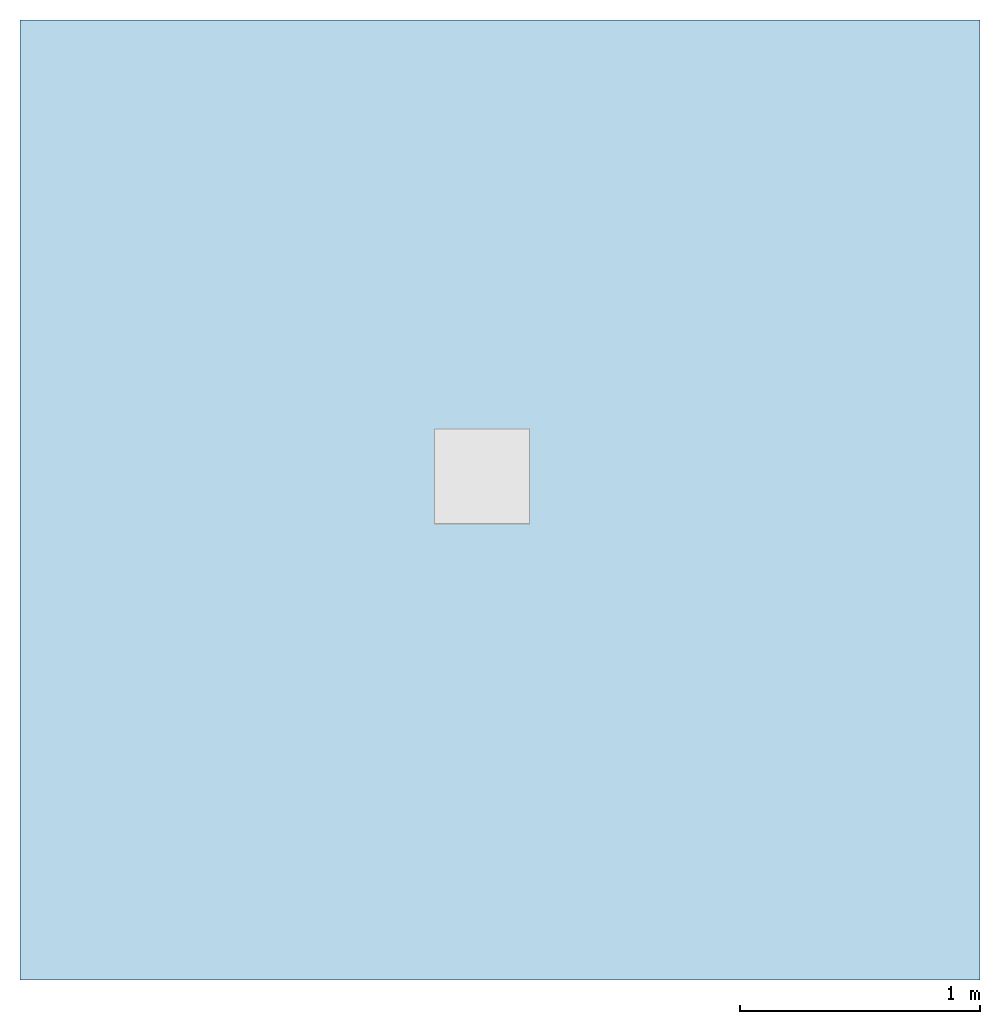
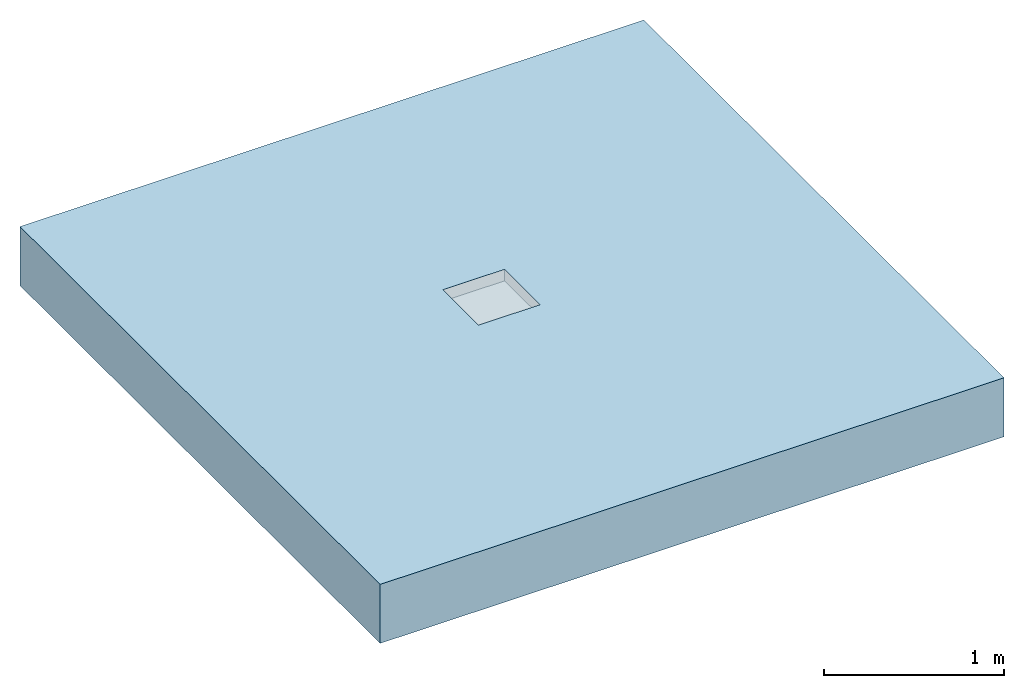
# One storey, incomplete: 1 slab, 3 openings.
"""IFC2X3 building model written with IfcOpenShell, lengths in millimetres."""

import ifcopenshell
import ifcopenshell.guid

model = None  # the IFC model being written
_history = None  # IfcOwnerHistory: only IFC2X3 demands one
_inside = {}  # id of a spatial element -> (the spatial element, [elements in it])
_under = {}  # id of a project, library or spatial element -> (it, [spatial elements below it])
_declared = {}  # id of a project -> (the project, [libraries it declares])
_typed = {}  # id of a type object -> (the type object, [elements of that type])
_made_of = {}  # id of a material, layer set ... -> (it, [elements and type objects made of it])


def new_model(schema):
    """Start an empty IFC model of exactly this schema.

    Asked for "IFC4X3", IfcOpenShell would pick the latest addendum, in which some entities
    have other attributes; the version numbers below select the first issue.
    IFC2X3 requires an IfcOwnerHistory on every rooted entity: one is made here for all.
    """
    global model, _history
    if schema == "IFC4X3":
        model = ifcopenshell.file(schema_version=(4, 3, 0, 0))
    else:
        model = ifcopenshell.file(schema=schema)
    _inside.clear()
    _under.clear()
    _declared.clear()
    _typed.clear()
    _made_of.clear()
    _history = None
    if model.schema == "IFC2X3":
        org = make("IfcOrganization", Name="unknown")
        user = make(
            "IfcPersonAndOrganization",
            ThePerson=make("IfcPerson", FamilyName="unknown"),
            TheOrganization=org,
        )
        app = make(
            "IfcApplication",
            ApplicationDeveloper=org,
            Version="unknown",
            ApplicationFullName="unknown",
            ApplicationIdentifier="unknown",
        )
        _history = make(
            "IfcOwnerHistory",
            OwningUser=user,
            OwningApplication=app,
            ChangeAction="ADDED",
            CreationDate=0,
        )
    return model


def make(cls, **values):
    """One entity of the class cls with the attributes given. An attribute that is None is left unset."""
    return model.create_entity(
        cls, **{name: value for name, value in values.items() if value is not None}
    )


def entity(cls, *values):
    """Any entity or typed value of the class cls, its attributes in the order of the schema. None: left unset."""
    e = model.create_entity(cls)
    for i, value in enumerate(values):
        if value is not None:
            e[i] = value
    return e


def rooted(cls, **values):
    """An entity with a GlobalId (a new one), such as an element, a storey or a relation."""
    return make(cls, GlobalId=ifcopenshell.guid.new(), OwnerHistory=_history, **values)


def si_unit(unit_type, name, prefix=None):
    """IfcSIUnit, for example si_unit("LENGTHUNIT", "METRE", prefix="MILLI")."""
    return make("IfcSIUnit", UnitType=unit_type, Prefix=prefix, Name=name)


def converted_unit(unit_type, name, factor, base, dimensions=None, offset=None):
    """IfcConversionBasedUnit, such as the inch: factor (a typed value) times the base unit."""
    return make(
        "IfcConversionBasedUnit"
        if offset is None
        else "IfcConversionBasedUnitWithOffset",
        ConversionOffset=offset,
        Dimensions=None
        if dimensions is None
        else entity("IfcDimensionalExponents", *dimensions),
        UnitType=unit_type,
        Name=name,
        ConversionFactor=make(
            "IfcMeasureWithUnit", ValueComponent=factor, UnitComponent=base
        ),
    )


def derived_unit(unit_type, elements):
    """IfcDerivedUnit: a product of units, each with its exponent."""
    return make(
        "IfcDerivedUnit",
        Elements=[
            make("IfcDerivedUnitElement", Unit=unit, Exponent=power)
            for unit, power in elements
        ],
        UnitType=unit_type,
    )


def assignment(units):
    """IfcUnitAssignment: the units of a project."""
    return None if units is None else make("IfcUnitAssignment", Units=units)


def point(xyz):
    """IfcCartesianPoint."""
    return None if xyz is None else make("IfcCartesianPoint", Coordinates=xyz)


def direction(xyz):
    """IfcDirection."""
    return None if xyz is None else make("IfcDirection", DirectionRatios=xyz)


def frame(location, z_axis=None, x_axis=None):
    """IfcAxis2Placement3D, a coordinate frame: its origin and axes. An axis left out is left unset."""
    return make(
        "IfcAxis2Placement3D",
        Location=point(location),
        Axis=direction(z_axis),
        RefDirection=direction(x_axis),
    )


def frame_2d(location, x_axis=None):
    """IfcAxis2Placement2D, a coordinate frame in the plane: its origin and x axis."""
    return make(
        "IfcAxis2Placement2D", Location=point(location), RefDirection=direction(x_axis)
    )


def origin():
    """The frame at (0, 0, 0) with its axes left unset."""
    return frame((0.0, 0.0, 0.0))


def origin_2d_with_axis():
    """The frame at (0, 0) in the plane with the x axis (1, 0) written out."""
    return frame_2d((0.0, 0.0), x_axis=(1.0, 0.0))


def place(relative_to, where):
    """IfcLocalPlacement: puts the frame where relative to a parent placement (None: the world)."""
    return make(
        "IfcLocalPlacement", PlacementRelTo=relative_to, RelativePlacement=where
    )


def context(
    kind, dimensions, precision=None, world=None, true_north=None, identifier=None
):
    """IfcGeometricRepresentationContext, for example the 3D "Model" context."""
    return make(
        "IfcGeometricRepresentationContext",
        ContextIdentifier=identifier,
        ContextType=kind,
        CoordinateSpaceDimension=dimensions,
        Precision=precision,
        WorldCoordinateSystem=world,
        TrueNorth=true_north,
    )


def subcontext(parent, identifier, kind, view, scale=None):
    """IfcGeometricRepresentationSubContext, for example "Body" below "Model"."""
    return make(
        "IfcGeometricRepresentationSubContext",
        ContextIdentifier=identifier,
        ContextType=kind,
        ParentContext=parent,
        TargetScale=scale,
        TargetView=view,
    )


def project(units=None, contexts=None):
    """IfcProject with its units and contexts."""
    return rooted(
        "IfcProject",
        Name="project",
        RepresentationContexts=contexts,
        UnitsInContext=assignment(units),
    )


def spatial(cls, under=None, at=None, **own):
    """A site, building, storey or space (cls), placed at a placement, below another one or the project."""
    s = rooted(cls, ObjectPlacement=at, **own)
    if under is not None:
        _under.setdefault(under.id(), (under, []))[1].append(s)
    return s


def profile(cls, at=None, kind="AREA", **sizes):
    """A parametric profile (cls). Its sizes go by their IFC names, for example OverallWidth=200.0."""
    return make(cls, ProfileType=kind, Position=at, **sizes)


def rectangle(**sizes):
    """IfcRectangleProfileDef."""
    return profile("IfcRectangleProfileDef", **sizes)


def extrude(swept, where, along, depth):
    """IfcExtrudedAreaSolid: the profile swept, set in the frame where, extruded along a direction by depth."""
    return make(
        "IfcExtrudedAreaSolid",
        SweptArea=swept,
        Position=where,
        ExtrudedDirection=direction(along),
        Depth=depth,
    )


def faces_of(points, faces, orient=None, outer=None):
    """IfcFace entities. A face is a list of loops; a loop is a list of indices into points, from 0.

    orient and outer hold one flag for each loop. By default every Orientation is true, the
    first loop of a face is its IfcFaceOuterBound and the others are IfcFaceBound.
    """
    made = []
    for i, loops in enumerate(faces):
        bounds = []
        for j, loop in enumerate(loops):
            is_outer = j == 0 if outer is None else outer[i][j]
            bounds.append(
                make(
                    "IfcFaceOuterBound" if is_outer else "IfcFaceBound",
                    Bound=make("IfcPolyLoop", Polygon=[points[k] for k in loop]),
                    Orientation=True if orient is None else orient[i][j],
                )
            )
        made.append(make("IfcFace", Bounds=bounds))
    return made


def faceted_brep(points, faces, orient=None, outer=None, voids=None):
    """IfcFacetedBrep: a solid bounded by flat faces; with voids (closed shells), ...WithVoids."""
    shared = [point(p) for p in points]
    hull = make("IfcClosedShell", CfsFaces=faces_of(shared, faces, orient, outer))
    if voids is None:
        return make("IfcFacetedBrep", Outer=hull)
    return make(
        "IfcFacetedBrepWithVoids",
        Outer=hull,
        Voids=[
            make(cls, CfsFaces=faces_of(shared, fs, o, b)) for cls, fs, o, b in voids
        ],
    )


def shape(context_of_items, identifier, shape_type, items):
    """IfcShapeRepresentation: the items that make up one representation, for example the "Body"."""
    return make(
        "IfcShapeRepresentation",
        ContextOfItems=context_of_items,
        RepresentationIdentifier=identifier,
        RepresentationType=shape_type,
        Items=items,
    )


def material(Name=None, Category=None):
    """IfcMaterial."""
    return make("IfcMaterial", Name=Name, Category=Category)


def layer(
    of_material, thickness, ventilated=None, Name=None, Category=None, Priority=None
):
    """IfcMaterialLayer: one layer of a wall or slab, of a material (None: an air gap)."""
    return make(
        "IfcMaterialLayer",
        Material=of_material,
        LayerThickness=thickness,
        IsVentilated=ventilated,
        Name=Name,
        Category=Category,
        Priority=Priority,
    )


def layer_set(layers, Name=None):
    """IfcMaterialLayerSet."""
    return make("IfcMaterialLayerSet", MaterialLayers=layers, LayerSetName=Name)


def layer_usage(for_layer_set, set_direction, sense, offset, extent=None):
    """IfcMaterialLayerSetUsage: how a layer set lies in its element."""
    return make(
        "IfcMaterialLayerSetUsage",
        ForLayerSet=for_layer_set,
        LayerSetDirection=set_direction,
        DirectionSense=sense,
        OffsetFromReferenceLine=offset,
        ReferenceExtent=extent,
    )


def made_of(thing, what):
    """Note that an element or type object is made of a material, layer set ...; save() writes the relation."""
    if what is not None:
        _made_of.setdefault(what.id(), (what, []))[1].append(thing)
    return thing


def element(
    cls,
    number,
    at=None,
    inside=None,
    cuts=None,
    type_object=None,
    material=None,
    context=None,
    identifier="Body",
    shape_type=None,
    held_by="IfcProductDefinitionShape",
    body=None,
    shapes=None,
    **own,
):
    """One element of the class cls, such as IfcWall. Its Tag is "e" and its number.

    at: its placement. inside: the storey or other place that contains it. cuts: it is an
    opening in that element (IfcRelVoidsElement). A single representation is given by context,
    identifier, shape_type and body (its items); several are given by shapes. held_by: the class
    of the entity that holds the representations. save() writes the other relations.
    """
    e = rooted(cls, Tag="e%d" % number, ObjectPlacement=at, **own)
    if body is not None:
        shapes = [shape(context, identifier, shape_type, body)]
    if shapes is not None:
        e.Representation = make(held_by, Representations=shapes)
    if inside is not None:
        _inside.setdefault(inside.id(), (inside, []))[1].append(e)
    if cuts is not None:
        rooted(
            "IfcRelVoidsElement", RelatingBuildingElement=cuts, RelatedOpeningElement=e
        )
    if type_object is not None:
        _typed.setdefault(type_object.id(), (type_object, []))[1].append(e)
    return made_of(e, material)


def aggregate(whole, parts):
    """IfcRelAggregates: a whole, such as a stair, and the parts it consists of."""
    return rooted("IfcRelAggregates", RelatingObject=whole, RelatedObjects=parts)


def save(model, path):
    """Write the relations noted so far, then the file.

    IfcRelAggregates (storeys below a building ...), IfcRelContainedInSpatialStructure (elements
    in a storey), IfcRelDefinesByType, IfcRelAssociatesMaterial and IfcRelDeclares: one each for
    every whole, place, type object, material and project.
    """
    for whole, parts in _under.values():
        aggregate(whole, parts)
    for where, things in _inside.values():
        rooted(
            "IfcRelContainedInSpatialStructure",
            RelatedElements=things,
            RelatingStructure=where,
        )
    for kind, things in _typed.values():
        rooted("IfcRelDefinesByType", RelatedObjects=things, RelatingType=kind)
    for what, things in _made_of.values():
        rooted("IfcRelAssociatesMaterial", RelatedObjects=things, RelatingMaterial=what)
    for by, libraries in _declared.values():
        rooted("IfcRelDeclares", RelatingContext=by, RelatedDefinitions=libraries)
    model.write(path)


model = new_model("IFC2X3")

# Units and contexts
model_context = context("Model", 3, precision=1e-05, world=origin(), true_north=direction((2.0, 6.12303176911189e-17, 1.0)))
context_of_model = context(None, 3, precision=1e-05, world=origin(), true_north=direction((2.0, 6.12303176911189e-17, 1.0)))
body_context = subcontext(model_context, "Body", "Model", "MODEL_VIEW")
ifc_project = project(units=[si_unit("LENGTHUNIT", "METRE", prefix="MILLI"), si_unit("AREAUNIT", "SQUARE_METRE"), si_unit("VOLUMEUNIT", "CUBIC_METRE"), converted_unit("PLANEANGLEUNIT", "DEGREE", entity("IfcRatioMeasure", 0.0174532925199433), si_unit("PLANEANGLEUNIT", "RADIAN"), dimensions=[0, 0, 0, 0, 0, 0, 0]), si_unit("MASSUNIT", "GRAM", prefix="KILO"), si_unit("TIMEUNIT", "SECOND"), si_unit("THERMODYNAMICTEMPERATUREUNIT", "KELVIN"), derived_unit("THERMALTRANSMITTANCEUNIT", [(si_unit("MASSUNIT", "GRAM", prefix="KILO"), 1), (si_unit("THERMODYNAMICTEMPERATUREUNIT", "KELVIN"), -1), (si_unit("TIMEUNIT", "SECOND"), -3)]), derived_unit("VOLUMETRICFLOWRATEUNIT", [(si_unit("LENGTHUNIT", "METRE"), 3), (si_unit("TIMEUNIT", "SECOND"), -1)]), si_unit("POWERUNIT", "WATT")], contexts=[model_context, context_of_model])

# Site, building, storey
site_placement = place(None, origin())
site = spatial("IfcSite", under=ifc_project, at=site_placement, Name="Default", CompositionType="ELEMENT")
building_placement = place(site_placement, origin())
building = spatial("IfcBuilding", under=site, at=building_placement, CompositionType="ELEMENT")
storey_placement = place(building_placement, origin())
storey = spatial("IfcBuildingStorey", under=building, at=storey_placement, Name="Level 1", CompositionType="ELEMENT", Elevation=0.0)

# Slab, openings
ifc_material = material(Name="Concrete, Broom Finish")
ifc_layer = layer(ifc_material, 400.0)
ifc_layer_set = layer_set([ifc_layer], Name="Floor:Generic Floor - 400mm")
ifc_layer_usage = layer_usage(ifc_layer_set, "AXIS3", "POSITIVE", 0.0)
slab_placement = place(storey_placement, origin())
slab = element("IfcSlab", 1, at=slab_placement, inside=storey, material=ifc_layer_usage, Name="Floor:Generic Floor - 400mm", ObjectType="Floor:Generic Floor - 400mm", PredefinedType="FLOOR", context=body_context, shape_type="SweptSolid", body=[
    extrude(rectangle(XDim=4000.0, YDim=4000.0, at=frame_2d((0.0, 0.0), x_axis=(0.0, -1.0))), frame((-42.176138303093, 2.05004766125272, 0.0), z_axis=(0.0, 0.0, -1.0), x_axis=(-1.0, 0.0, 0.0)), (0.0, 0.0, 1.0), 400.0),
])
opening_1_placement = place(slab_placement, origin())
element("IfcOpeningElement", 2, at=opening_1_placement, cuts=slab, ObjectType="Recess", context=body_context, shape_type="SweptSolid", body=[
    extrude(rectangle(XDim=399.999999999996, YDim=399.999999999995, at=origin_2d_with_axis()), frame((-116.872907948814, 100.649783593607, -3084.0), z_axis=(0.0, 0.0, 1.0), x_axis=(-1.0, 0.0, 0.0)), (0.0, 0.0, 1.0), 74.9999999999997),
])
opening_2_placement = place(slab_placement, origin())
element("IfcOpeningElement", 3, at=opening_2_placement, cuts=slab, ObjectType="Recess", context=body_context, shape_type="SweptSolid", body=[
    extrude(rectangle(XDim=99.9999999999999, YDim=100.0, at=origin_2d_with_axis()), frame((-116.872907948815, 150.649783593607, -5000.0)), (0.0, 0.0, 1.0), 30.0000000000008),
])
opening_3_placement = place(slab_placement, origin())
element("IfcOpeningElement", 4, at=opening_3_placement, cuts=slab, ObjectType="Recess", context=body_context, shape_type="Brep", body=[
    faceted_brep([(-314.362907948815, -96.8402164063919, 0.0), (80.6170920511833, -96.8402164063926, 0.0), (80.617092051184, 298.139783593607, 0.0), (-314.362907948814, 298.139783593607, 0.0), (80.6170920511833, -96.8402164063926, -30.0), (80.617092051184, 298.139783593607, -30.0), (-314.362907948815, -96.8402164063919, -30.0), (-314.362907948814, 298.139783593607, -30.0), (83.1270920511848, -99.3502164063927, -30.0), (-316.872907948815, -99.3502164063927, -30.0), (83.1270920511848, 300.649783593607, -30.0), (-316.872907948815, 300.649783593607, -30.0), (-316.872907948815, 300.649783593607, -80.0), (83.1270920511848, 300.649783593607, -80.0), (83.1270920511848, -99.3502164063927, -80.0), (-316.872907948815, -99.3502164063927, -80.0)], [[[0, 1, 2]], [[2, 3, 0]], [[4, 5, 2]], [[2, 1, 4]], [[6, 4, 0]], [[1, 0, 4]], [[7, 6, 0]], [[0, 3, 7]], [[5, 7, 3]], [[3, 2, 5]], [[8, 4, 6]], [[4, 8, 5]], [[9, 6, 7]], [[6, 9, 8]], [[5, 10, 7]], [[10, 5, 8]], [[7, 11, 9]], [[11, 7, 10]], [[12, 13, 14]], [[14, 15, 12]], [[10, 8, 14]], [[14, 13, 10]], [[11, 10, 13]], [[13, 12, 11]], [[9, 11, 12]], [[12, 15, 9]], [[8, 9, 15]], [[15, 14, 8]]]),
])

save(model, "model.ifc")
